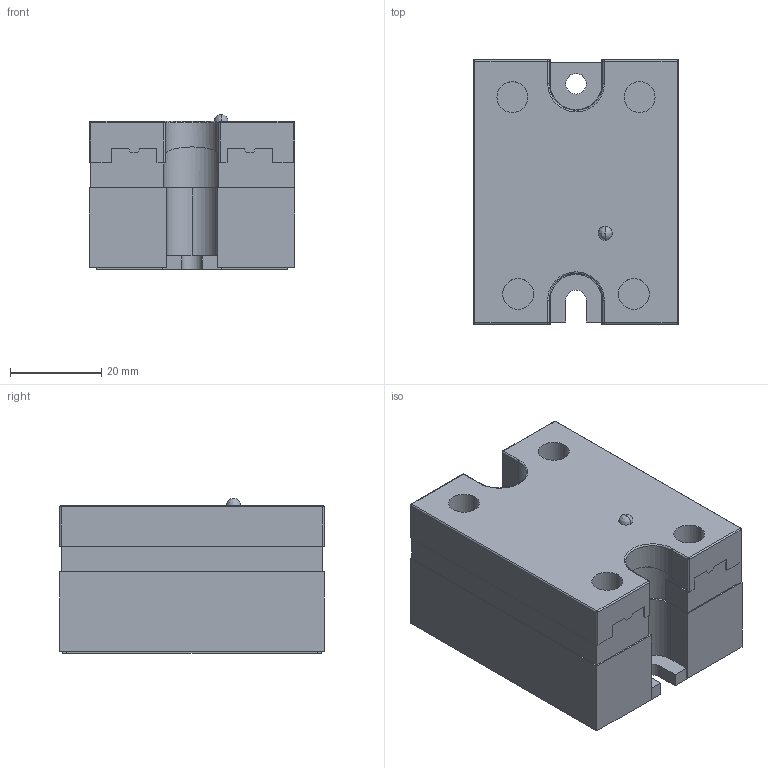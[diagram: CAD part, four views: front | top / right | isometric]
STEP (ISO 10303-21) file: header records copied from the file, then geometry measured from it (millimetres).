
FILE_DESCRIPTION (( 'STEP AP214' ), '1' );
FILE_NAME ('SP1PXN.STEP', '2024-04-12T09:22:01', ( '' ), ( '' ), 'SwSTEP 2.0', 'SolidWorks 2022', '' );
FILE_SCHEMA (( 'AUTOMOTIVE_DESIGN' ));
Length unit declared in the file: millimetre
Products named in the file (1): SP1PXN
Bounding box: 45 x 58 x 34 mm (x, y, z)
Volume: 73676.1 mm3; surface area: 15625.2 mm2
Topology: 1 solids, 3 shells, 169 faces, 447 edges, 282 vertices
Faces by surface type: plane 117, cylinder 40, bspline 12
Entity records: 5283 total; most frequent: CARTESIAN_POINT 1113, ORIENTED_EDGE 878, DIRECTION 819, EDGE_CURVE 439, LINE 347, VECTOR 347, VERTEX_POINT 282, AXIS2_PLACEMENT_3D 236
